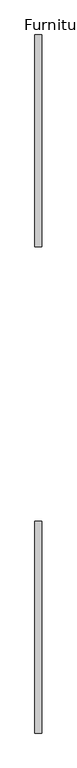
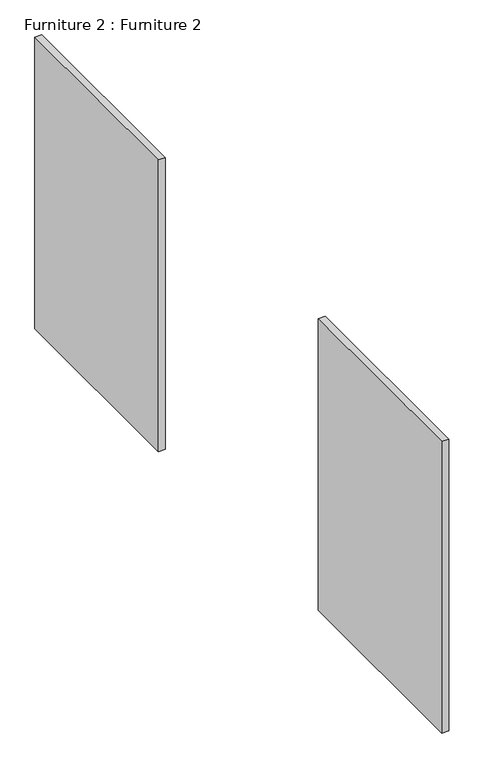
"""IFC4 building model written with IfcOpenShell, lengths in millimetres: furniture geometry, Furniture 2 : Furniture 2."""

from ifc_helpers import new_model, si_unit, frame, origin, place, context, project, spatial, polyline, outline, extrude, source, transform, mapped, element, save


def furniture_2_furniture_2_3946703e(model_context):
    return source(origin(), model_context, "Body", "SweptSolid", [
        extrude(outline(polyline([(1102.5234079, 6888.2487593), (1102.5234079, 7498.2487593), (1122.5234079, 7498.2487593), (1122.5234079, 6888.2487593), (1102.5234079, 6888.2487593)])), frame((0.0, 0.0, 11004.6), z_axis=(0.0, 0.0, 1.0), x_axis=(1.0, 0.0, 0.0)), (0.0, 0.0, 1.0), 880.0),
        extrude(outline(polyline([(1102.5234079, 5488.2487593), (1102.5234079, 6098.2487593), (1122.5234079, 6098.2487593), (1122.5234079, 5488.2487593), (1102.5234079, 5488.2487593)])), frame((0.0, 0.0, 11004.6), z_axis=(0.0, 0.0, 1.0), x_axis=(1.0, 0.0, 0.0)), (0.0, 0.0, 1.0), 880.0),
    ])


if __name__ == "__main__":
    model = new_model("IFC4")
    model_context = context("Model", 3, world=origin())
    ifc_project = project(units=[si_unit("LENGTHUNIT", "METRE", prefix="MILLI")], contexts=[model_context])
    site = spatial("IfcSite", under=ifc_project)
    building = spatial("IfcBuilding", under=site)
    placement = place(None, origin())
    furniture_2_furniture_2_shape = furniture_2_furniture_2_3946703e(model_context)
    element("IfcFurniture", 1, ObjectType="Furniture 2 : Furniture 2", at=placement, inside=building, context=model_context, shape_type="MappedRepresentation", body=[
        mapped(furniture_2_furniture_2_shape, transform((0.0, 0.0, 0.0), x_axis=(1.0, 0.0, 0.0), y_axis=(0.0, 1.0, 0.0), z_axis=(0.0, 0.0, 1.0))),
    ])
    save(model, "model.ifc")
